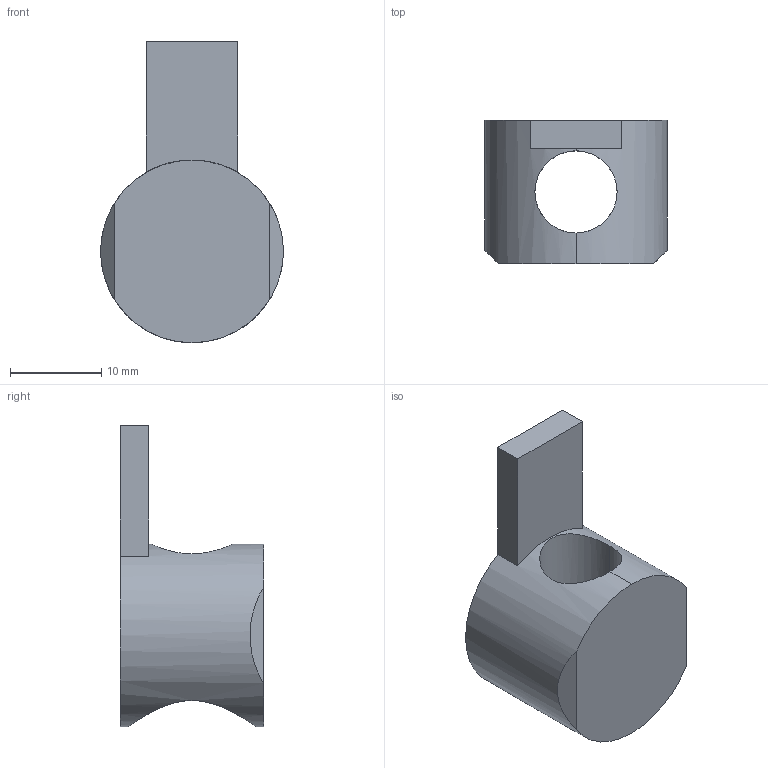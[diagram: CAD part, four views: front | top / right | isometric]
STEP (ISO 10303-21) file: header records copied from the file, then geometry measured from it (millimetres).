
FILE_DESCRIPTION (( 'STEP AP203' ), '1' );
FILE_NAME ('CP-UJT4545.STEP', '2018-03-15T13:01:46', ( '' ), ( '' ), 'SwSTEP 2.0', 'SolidWorks 2013', '' );
FILE_SCHEMA (( 'CONFIG_CONTROL_DESIGN' ));
Length unit declared in the file: millimetre
Products named in the file (1): CP-UJT4545
Bounding box: 20 x 15.7 x 33 mm (x, y, z)
Volume: 3007 mm3; surface area: 2511.4 mm2
Topology: 1 solids, 1 shells, 15 faces, 42 edges, 28 vertices
Faces by surface type: plane 9, cylinder 6
Entity records: 719 total; most frequent: CARTESIAN_POINT 258, ORIENTED_EDGE 84, DIRECTION 76, EDGE_CURVE 42, AXIS2_PLACEMENT_3D 28, VERTEX_POINT 28, VECTOR 20, LINE 20
